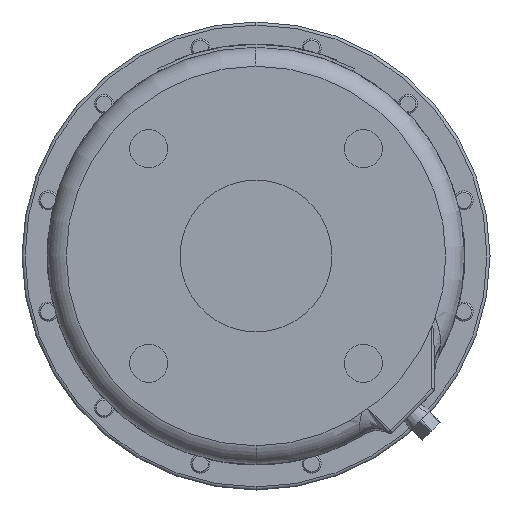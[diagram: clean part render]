
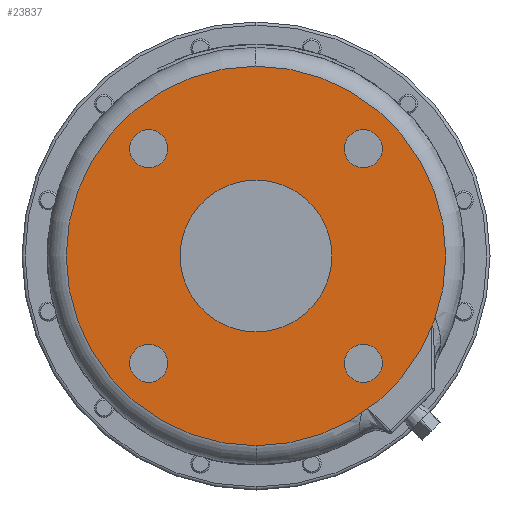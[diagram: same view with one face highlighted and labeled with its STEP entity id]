
A CAD part, front view. The second image highlights one B-rep face of the part: STEP entity #23837.
In plain terms, the highlighted planar face has unit normal (0, -1, 0).
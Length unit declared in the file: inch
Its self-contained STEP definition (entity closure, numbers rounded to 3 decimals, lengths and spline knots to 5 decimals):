
#411 = CARTESIAN_POINT ( 'NONE',  ( 2.12132, -12.81, -2.12132 ) ) ;
#2248 = EDGE_CURVE ( 'NONE', #13499, #23496, #8862, .T. ) ;
#2877 = EDGE_CURVE ( 'NONE', #31241, #38890, #33491, .T. ) ;
#3122 = AXIS2_PLACEMENT_3D ( 'NONE', #411, #6113, #40601 ) ;
#3882 = ORIENTED_EDGE ( 'NONE', *, *, #26737, .F. ) ;
#4281 = CARTESIAN_POINT ( 'NONE',  ( -2.12132, -12.81, -1.74632 ) ) ;
#4430 = ORIENTED_EDGE ( 'NONE', *, *, #14875, .F. ) ;
#5011 = ORIENTED_EDGE ( 'NONE', *, *, #40864, .F. ) ;
#5362 = ORIENTED_EDGE ( 'NONE', *, *, #33433, .F. ) ;
#6100 = CARTESIAN_POINT ( 'NONE',  ( 0., -12.81, 0. ) ) ;
#6113 = DIRECTION ( 'NONE',  ( 0., -1., 0. ) ) ;
#6528 = FACE_BOUND ( 'NONE', #36717, .T. ) ;
#7531 = EDGE_CURVE ( 'NONE', #11247, #42843, #30658, .T. ) ;
#7632 = VERTEX_POINT ( 'NONE', #18543 ) ;
#8862 = CIRCLE ( 'NONE', #38488, 0.375 ) ;
#9106 = VERTEX_POINT ( 'NONE', #12357 ) ;
#9720 = DIRECTION ( 'NONE',  ( 0., -1., 0. ) ) ;
#9782 = EDGE_LOOP ( 'NONE', ( #3882, #31162 ) ) ;
#9814 = DIRECTION ( 'NONE',  ( 0., 1., 0. ) ) ;
#9938 = DIRECTION ( 'NONE',  ( 0., 0., -1. ) ) ;
#10273 = DIRECTION ( 'NONE',  ( 0., -1., 0. ) ) ;
#10302 = AXIS2_PLACEMENT_3D ( 'NONE', #32152, #9720, #35868 ) ;
#10460 = CARTESIAN_POINT ( 'NONE',  ( 0., -12.81, 0. ) ) ;
#10865 = AXIS2_PLACEMENT_3D ( 'NONE', #10460, #9814, #11233 ) ;
#10979 = ORIENTED_EDGE ( 'NONE', *, *, #47147, .F. ) ;
#11233 = DIRECTION ( 'NONE',  ( 0., 0., 1. ) ) ;
#11247 = VERTEX_POINT ( 'NONE', #48325 ) ;
#11332 = CARTESIAN_POINT ( 'NONE',  ( -2.12132, -12.81, 2.49632 ) ) ;
#12104 = CIRCLE ( 'NONE', #20161, 1.5 ) ;
#12357 = CARTESIAN_POINT ( 'NONE',  ( 2.12132, -12.81, -1.74632 ) ) ;
#12551 = FACE_BOUND ( 'NONE', #25092, .T. ) ;
#13015 = AXIS2_PLACEMENT_3D ( 'NONE', #38521, #16176, #42318 ) ;
#13180 = DIRECTION ( 'NONE',  ( 0., -1., 0. ) ) ;
#13499 = VERTEX_POINT ( 'NONE', #33507 ) ;
#13926 = EDGE_CURVE ( 'NONE', #9106, #22735, #42744, .T. ) ;
#14243 = CARTESIAN_POINT ( 'NONE',  ( 2.12132, -12.81, 2.49632 ) ) ;
#14556 = DIRECTION ( 'NONE',  ( 0., -1., 0. ) ) ;
#14585 = DIRECTION ( 'NONE',  ( 0., -1., 0. ) ) ;
#14875 = EDGE_CURVE ( 'NONE', #43119, #25323, #44150, .T. ) ;
#14974 = VERTEX_POINT ( 'NONE', #43911 ) ;
#15158 = DIRECTION ( 'NONE',  ( 0., -1., 0. ) ) ;
#16176 = DIRECTION ( 'NONE',  ( 0., -1., 0. ) ) ;
#16423 = EDGE_CURVE ( 'NONE', #23496, #13499, #17015, .T. ) ;
#16693 = CARTESIAN_POINT ( 'NONE',  ( -2.12132, -12.81, 2.12132 ) ) ;
#17015 = CIRCLE ( 'NONE', #46942, 0.375 ) ;
#17052 = AXIS2_PLACEMENT_3D ( 'NONE', #20605, #46763, #24269 ) ;
#17685 = AXIS2_PLACEMENT_3D ( 'NONE', #37499, #15158, #41304 ) ;
#18543 = CARTESIAN_POINT ( 'NONE',  ( 0., -12.81, 1.5 ) ) ;
#19452 = ORIENTED_EDGE ( 'NONE', *, *, #16423, .F. ) ;
#19536 = FACE_BOUND ( 'NONE', #28055, .T. ) ;
#20161 = AXIS2_PLACEMENT_3D ( 'NONE', #6100, #32358, #9938 ) ;
#20383 = DIRECTION ( 'NONE',  ( 0., -1., 0. ) ) ;
#20605 = CARTESIAN_POINT ( 'NONE',  ( 0., -12.81, 0. ) ) ;
#20986 = AXIS2_PLACEMENT_3D ( 'NONE', #46544, #20383, #39261 ) ;
#21523 = PLANE ( 'NONE',  #46457 ) ;
#21560 = DIRECTION ( 'NONE',  ( 0., -1., 0. ) ) ;
#21849 = EDGE_LOOP ( 'NONE', ( #5362, #23770 ) ) ;
#22735 = VERTEX_POINT ( 'NONE', #44818 ) ;
#22849 = CIRCLE ( 'NONE', #47625, 0.375 ) ;
#23496 = VERTEX_POINT ( 'NONE', #11332 ) ;
#23770 = ORIENTED_EDGE ( 'NONE', *, *, #7531, .F. ) ;
#23837 = ADVANCED_FACE ( 'NONE', ( #30101, #6528, #32424, #12551, #19536, #25506 ), #21523, .T. ) ;
#24269 = DIRECTION ( 'NONE',  ( 0., 0., 1. ) ) ;
#25001 = CARTESIAN_POINT ( 'NONE',  ( 0., -12.81, 3.75 ) ) ;
#25092 = EDGE_LOOP ( 'NONE', ( #5011, #26187 ) ) ;
#25188 = CARTESIAN_POINT ( 'NONE',  ( 3.75, -12.81, 0. ) ) ;
#25323 = VERTEX_POINT ( 'NONE', #14243 ) ;
#25506 = FACE_OUTER_BOUND ( 'NONE', #21849, .T. ) ;
#26187 = ORIENTED_EDGE ( 'NONE', *, *, #13926, .F. ) ;
#26737 = EDGE_CURVE ( 'NONE', #38890, #31241, #22849, .T. ) ;
#27674 = AXIS2_PLACEMENT_3D ( 'NONE', #43936, #21560, #47723 ) ;
#28055 = EDGE_LOOP ( 'NONE', ( #43388, #10979 ) ) ;
#30101 = FACE_BOUND ( 'NONE', #47643, .T. ) ;
#30546 = CIRCLE ( 'NONE', #27674, 0.375 ) ;
#30548 = CARTESIAN_POINT ( 'NONE',  ( 2.12132, -12.81, 1.74632 ) ) ;
#30658 = CIRCLE ( 'NONE', #10865, 3.75 ) ;
#30694 = CIRCLE ( 'NONE', #17685, 1.5 ) ;
#31162 = ORIENTED_EDGE ( 'NONE', *, *, #2877, .F. ) ;
#31241 = VERTEX_POINT ( 'NONE', #4281 ) ;
#32152 = CARTESIAN_POINT ( 'NONE',  ( -2.12132, -12.81, -2.12132 ) ) ;
#32183 = CIRCLE ( 'NONE', #13015, 0.375 ) ;
#32358 = DIRECTION ( 'NONE',  ( 0., -1., 0. ) ) ;
#32424 = FACE_BOUND ( 'NONE', #9782, .T. ) ;
#33433 = EDGE_CURVE ( 'NONE', #42843, #11247, #46072, .T. ) ;
#33491 = CIRCLE ( 'NONE', #10302, 0.375 ) ;
#33507 = CARTESIAN_POINT ( 'NONE',  ( -2.12132, -12.81, 1.74632 ) ) ;
#33530 = ORIENTED_EDGE ( 'NONE', *, *, #2248, .F. ) ;
#34270 = ORIENTED_EDGE ( 'NONE', *, *, #38732, .F. ) ;
#34611 = EDGE_CURVE ( 'NONE', #7632, #14974, #30694, .T. ) ;
#35868 = DIRECTION ( 'NONE',  ( 0., 0., -1. ) ) ;
#36425 = DIRECTION ( 'NONE',  ( 0., 0., -1. ) ) ;
#36717 = EDGE_LOOP ( 'NONE', ( #33530, #19452 ) ) ;
#36913 = DIRECTION ( 'NONE',  ( 0., 0., -1. ) ) ;
#36939 = CARTESIAN_POINT ( 'NONE',  ( -2.12132, -12.81, -2.12132 ) ) ;
#37452 = CARTESIAN_POINT ( 'NONE',  ( -2.12132, -12.81, -2.49632 ) ) ;
#37499 = CARTESIAN_POINT ( 'NONE',  ( 0., -12.81, 0. ) ) ;
#38488 = AXIS2_PLACEMENT_3D ( 'NONE', #40714, #14556, #36913 ) ;
#38521 = CARTESIAN_POINT ( 'NONE',  ( 2.12132, -12.81, -2.12132 ) ) ;
#38732 = EDGE_CURVE ( 'NONE', #25323, #43119, #30546, .T. ) ;
#38890 = VERTEX_POINT ( 'NONE', #37452 ) ;
#39019 = DIRECTION ( 'NONE',  ( 0., 0., -1. ) ) ;
#39261 = DIRECTION ( 'NONE',  ( 0., 0., -1. ) ) ;
#40601 = DIRECTION ( 'NONE',  ( 0., 0., -1. ) ) ;
#40714 = CARTESIAN_POINT ( 'NONE',  ( -2.12132, -12.81, 2.12132 ) ) ;
#40742 = DIRECTION ( 'NONE',  ( 0., 0., -1. ) ) ;
#40864 = EDGE_CURVE ( 'NONE', #22735, #9106, #32183, .T. ) ;
#41304 = DIRECTION ( 'NONE',  ( 0., 0., -1. ) ) ;
#42318 = DIRECTION ( 'NONE',  ( 0., 0., -1. ) ) ;
#42744 = CIRCLE ( 'NONE', #3122, 0.375 ) ;
#42843 = VERTEX_POINT ( 'NONE', #25001 ) ;
#43119 = VERTEX_POINT ( 'NONE', #30548 ) ;
#43388 = ORIENTED_EDGE ( 'NONE', *, *, #34611, .F. ) ;
#43911 = CARTESIAN_POINT ( 'NONE',  ( 0., -12.81, -1.5 ) ) ;
#43936 = CARTESIAN_POINT ( 'NONE',  ( 2.12132, -12.81, 2.12132 ) ) ;
#44150 = CIRCLE ( 'NONE', #20986, 0.375 ) ;
#44818 = CARTESIAN_POINT ( 'NONE',  ( 2.12132, -12.81, -2.49632 ) ) ;
#46072 = CIRCLE ( 'NONE', #17052, 3.75 ) ;
#46457 = AXIS2_PLACEMENT_3D ( 'NONE', #25188, #10273, #36425 ) ;
#46544 = CARTESIAN_POINT ( 'NONE',  ( 2.12132, -12.81, 2.12132 ) ) ;
#46763 = DIRECTION ( 'NONE',  ( 0., 1., 0. ) ) ;
#46942 = AXIS2_PLACEMENT_3D ( 'NONE', #16693, #13180, #39019 ) ;
#47147 = EDGE_CURVE ( 'NONE', #14974, #7632, #12104, .T. ) ;
#47625 = AXIS2_PLACEMENT_3D ( 'NONE', #36939, #14585, #40742 ) ;
#47643 = EDGE_LOOP ( 'NONE', ( #4430, #34270 ) ) ;
#47723 = DIRECTION ( 'NONE',  ( 0., 0., -1. ) ) ;
#48325 = CARTESIAN_POINT ( 'NONE',  ( 0., -12.81, -3.75 ) ) ;
